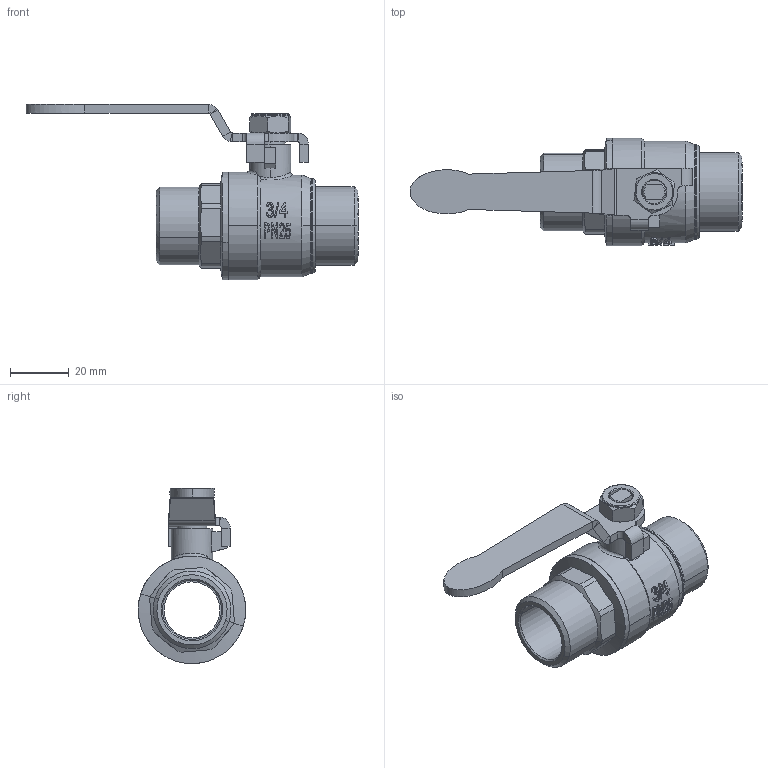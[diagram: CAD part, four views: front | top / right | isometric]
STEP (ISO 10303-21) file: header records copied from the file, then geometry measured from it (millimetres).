
FILE_DESCRIPTION(/* description */ (''),/* implementation_level */ '2;1');
FILE_NAME(/* name */ '1173.stp',/* time_stamp */ '2022-05-12T16:26:06+08:00',/* author */ (''),/* organization */ (''),/* preprocessor_version */ 'ST-DEVELOPER v11',/* originating_system */ 'SIEMENS PLM Software NX 7.5',/* authorisation */ '');
FILE_SCHEMA (('CONFIG_CONTROL_DESIGN'));
Length unit declared in the file: millimetre
Products named in the file (1): 1173
Bounding box: 112.62 x 36.5 x 59.48 mm (x, y, z)
Volume: 26941.1 mm3; surface area: 21802.6 mm2
Topology: 5 solids, 5 shells, 338 faces, 835 edges, 526 vertices
Faces by surface type: plane 115, cylinder 95, bspline 66, cone 40, torus 20, sphere 2
Full cylindrical faces by diameter (mm): 34.5 x1
Entity records: 26583 total; most frequent: CARTESIAN_POINT 18961, ORIENTED_EDGE 1676, DIRECTION 1393, EDGE_CURVE 838, AXIS2_PLACEMENT_3D 548, VERTEX_POINT 530, EDGE_LOOP 368, ADVANCED_FACE 338
